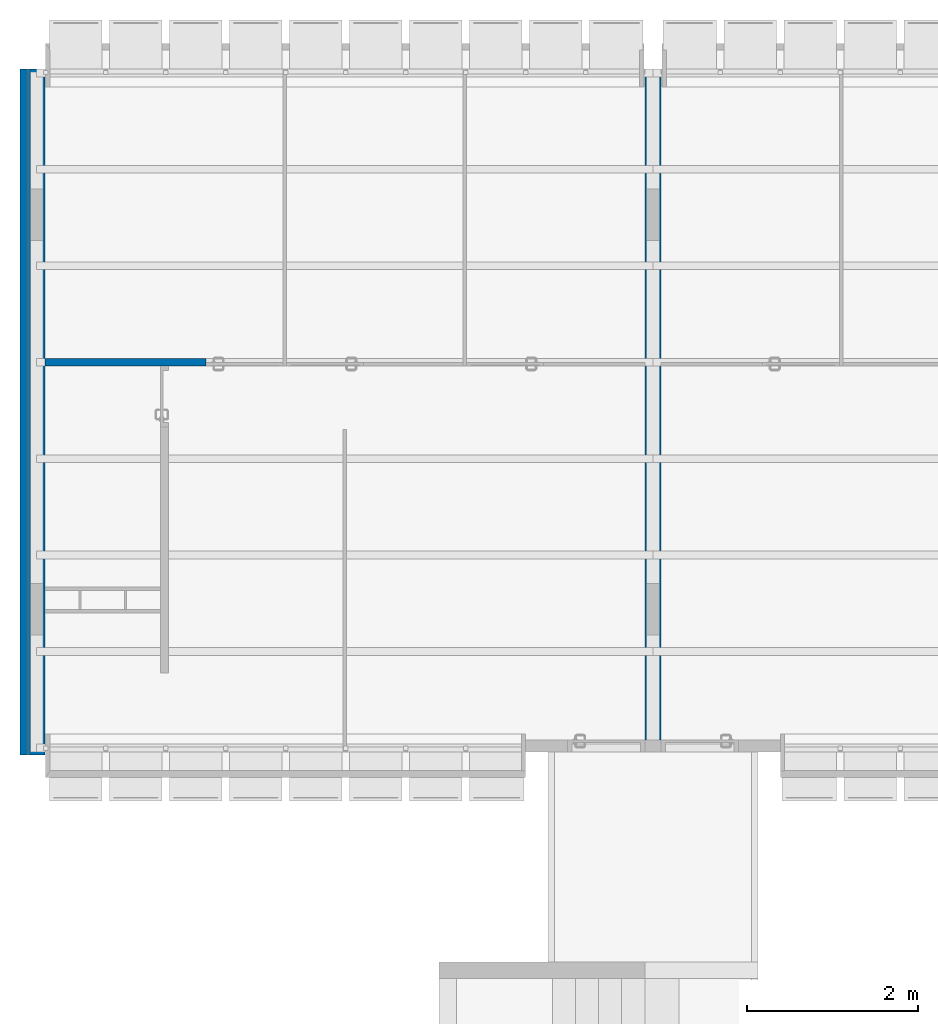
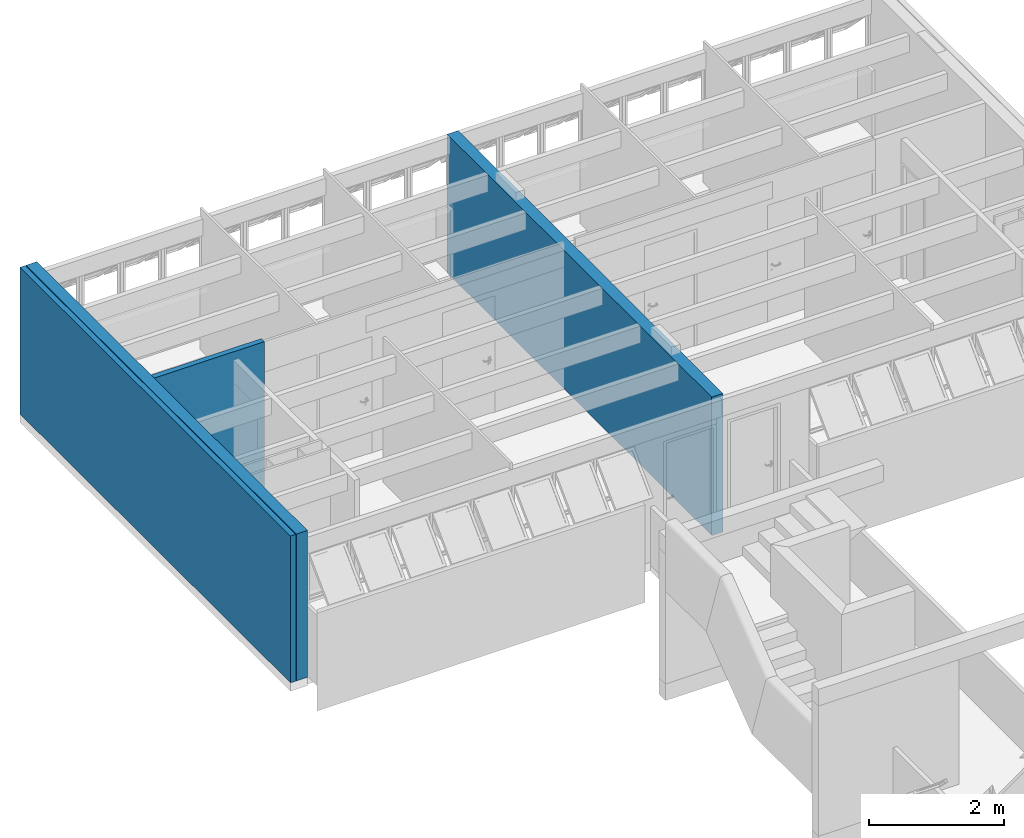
# One storey, part 33 of 40: 4 walls.
"""IFC4 building model written with IfcOpenShell, lengths in millimetres."""

from ifc_helpers import new_model, entity, si_unit, converted_unit, derived_unit, direction, frame, origin_with_axes, place, context, subcontext, project, spatial, line, indexed_curve, outline, extrude, material, layer, layer_set, layer_usage, type_object, element, save


model = new_model("IFC4")

# Units and contexts
model_context = context("Model", 3, precision=0.01, world=origin_with_axes(), true_north=direction((0.0, 1.0)))
body_context = subcontext(model_context, "Body", "Model", "MODEL_VIEW")
ifc_project = project(units=[si_unit("LENGTHUNIT", "METRE", prefix="MILLI"), si_unit("AREAUNIT", "SQUARE_METRE"), si_unit("VOLUMEUNIT", "CUBIC_METRE"), converted_unit("PLANEANGLEUNIT", "DEGREE", entity("IfcPlaneAngleMeasure", 0.0174532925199), si_unit("PLANEANGLEUNIT", "RADIAN"), dimensions=[0, 0, 0, 0, 0, 0, 0]), converted_unit("TIMEUNIT", "Year", entity("IfcTimeMeasure", 31556926.0), si_unit("TIMEUNIT", "SECOND"), dimensions=[0, 0, 1, 0, 0, 0, 0]), si_unit("MASSUNIT", "GRAM", prefix="KILO"), si_unit("THERMODYNAMICTEMPERATUREUNIT", "DEGREE_CELSIUS"), si_unit("LUMINOUSINTENSITYUNIT", "LUMEN"), si_unit("ENERGYUNIT", "JOULE", prefix="MEGA"), derived_unit("THERMALCONDUCTANCEUNIT", [(si_unit("POWERUNIT", "WATT"), 1), (si_unit("LENGTHUNIT", "METRE"), -1), (si_unit("THERMODYNAMICTEMPERATUREUNIT", "KELVIN"), -1)]), derived_unit("SPECIFICHEATCAPACITYUNIT", [(si_unit("ENERGYUNIT", "JOULE"), 1), (si_unit("MASSUNIT", "GRAM", prefix="KILO"), -1), (si_unit("THERMODYNAMICTEMPERATUREUNIT", "KELVIN"), -1)]), derived_unit("MASSDENSITYUNIT", [(si_unit("MASSUNIT", "GRAM", prefix="KILO"), 1), (si_unit("VOLUMEUNIT", "CUBIC_METRE"), -1)])], contexts=[model_context])

# Site, building, storey
site_placement = place(None, origin_with_axes())
site = spatial("IfcSite", under=ifc_project, at=site_placement, Name="Local", CompositionType="ELEMENT")
building_placement = place(site_placement, origin_with_axes())
building = spatial("IfcBuilding", under=site, at=building_placement, Name="Construção", CompositionType="ELEMENT")
storey_placement = place(building_placement, origin_with_axes())
storey = spatial("IfcBuildingStorey", under=building, at=storey_placement, Name="Primeiro Pavimento", CompositionType="ELEMENT", Elevation=0.0)

# Walls
ifc_material = material(Name="GENÉRICO - VEDAÇÃO EXTERNA")
ifc_layer_1 = layer(ifc_material, 190.0, ventilated="UNKNOWN", Name="GENÉRICO - VEDAÇÃO EXTERNA")
ifc_layer_set_1 = layer_set([ifc_layer_1], Name="GENÉRICO - VEDAÇÃO EXTERNA 190")
ifc_layer_usage_1 = layer_usage(ifc_layer_set_1, "AXIS2", "POSITIVE", 0.0)
wall_type_1 = type_object("IfcWallType", Name="GENÉRICO - VEDAÇÃO EXTERNA 190", PredefinedType="NOTDEFINED")
wall_1_placement = place(storey_placement, frame((290.0, 17860.0, 0.0), z_axis=(0.0, 0.0, 1.0), x_axis=(0.0, 1.0, 0.0)))
element("IfcWall", 1, at=wall_1_placement, inside=storey, type_object=wall_type_1, material=ifc_layer_usage_1, Name="APTO3-PAREDE-013", PredefinedType="NOTDEFINED", context=body_context, shape_type="SweptSolid", body=[
    extrude(outline(indexed_curve([(0.0, 0.0), (8000.0, 0.0), (8000.0, 190.0), (0.0, 190.0)], segments=[line(1, 2, 3, 4, 1)])), origin_with_axes(), (0.0, 0.0, 1.0), 2650.0),
])
ifc_layer_usage_2 = layer_usage(ifc_layer_set_1, "AXIS2", "POSITIVE", 0.0)
wall_2_placement = place(storey_placement, frame((7480.0, 18035.0, 0.0), z_axis=(0.0, 0.0, 1.0), x_axis=(0.0, 1.0, 0.0)))
element("IfcWall", 2, at=wall_2_placement, inside=storey, type_object=wall_type_1, material=ifc_layer_usage_2, Name="CIRC1-PAREDE-029", PredefinedType="NOTDEFINED", context=body_context, shape_type="SweptSolid", body=[
    extrude(outline(indexed_curve([(0.0, 0.0), (7825.0, 0.0), (7825.0, 190.0), (0.0, 190.0)], segments=[line(1, 2, 3, 4, 1)])), origin_with_axes(), (0.0, 0.0, 1.0), 2500.0),
])
ifc_layer_2 = layer(ifc_material, 90.0, ventilated="UNKNOWN", Name="GENÉRICO - VEDAÇÃO EXTERNA")
ifc_layer_set_2 = layer_set([ifc_layer_2], Name="GENÉRICO - VEDAÇÃO EXTERNA 90")
ifc_layer_usage_3 = layer_usage(ifc_layer_set_2, "AXIS2", "POSITIVE", 0.0)
wall_type_2 = type_object("IfcWallType", Name="GENÉRICO - VEDAÇÃO EXTERNA 90", PredefinedType="NOTDEFINED")
wall_3_placement = place(storey_placement, frame((290.0, 22394.7804333, 0.0), z_axis=(0.0, 0.0, 1.0), x_axis=(1.0, 0.0, 0.0)))
element("IfcWall", 3, at=wall_3_placement, inside=storey, type_object=wall_type_2, material=ifc_layer_usage_3, Name="APTO3-PAREDE-019", PredefinedType="NOTDEFINED", context=body_context, shape_type="SweptSolid", body=[
    extrude(outline(indexed_curve([(0.0, 0.0), (1880.0, 0.0), (1879.99807021, 90.0), (0.0, 90.0)], segments=[line(1, 2, 3, 4, 1)])), origin_with_axes(), (0.0, 0.0, 1.0), 2650.0),
])
ifc_layer_usage_4 = layer_usage(ifc_layer_set_2, "AXIS2", "POSITIVE", 0.0)
wall_4_placement = place(storey_placement, frame((90.0, 17860.0, 0.0), z_axis=(0.0, 0.0, 1.0), x_axis=(0.0, 1.0, 0.0)))
element("IfcWall", 4, at=wall_4_placement, inside=storey, type_object=wall_type_2, material=ifc_layer_usage_4, Name="APTO3-PAREDE-014", PredefinedType="NOTDEFINED", context=body_context, shape_type="SweptSolid", body=[
    extrude(outline(indexed_curve([(0.0, 0.0), (8000.0, 0.0), (8000.0, 90.0), (0.0, 90.0)], segments=[line(1, 2, 3, 4, 1)])), origin_with_axes(), (0.0, 0.0, 1.0), 2650.0),
])

save(model, "model.ifc")
